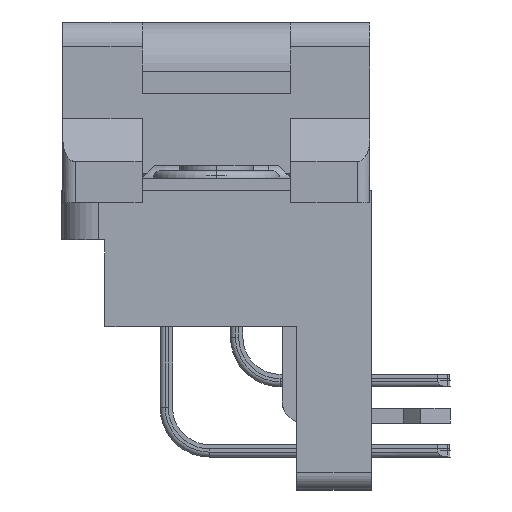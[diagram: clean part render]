
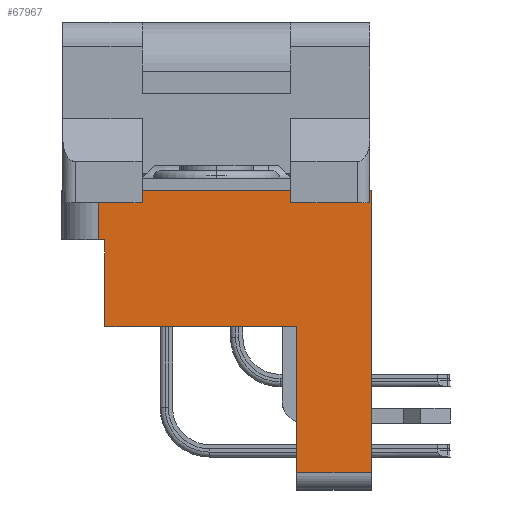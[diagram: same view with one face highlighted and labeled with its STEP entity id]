
A CAD part, left-side view. The second image highlights one B-rep face of the part: STEP entity #67967.
In plain terms, the highlighted planar face has unit normal (-1, 0, 0).
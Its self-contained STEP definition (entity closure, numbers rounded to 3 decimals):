
#2152 = CARTESIAN_POINT ( 'NONE',  ( -34.65, 4.5, -2. ) ) ;
#2192 = CARTESIAN_POINT ( 'NONE',  ( -34.65, -3.25, -11.4 ) ) ;
#2970 = CARTESIAN_POINT ( 'NONE',  ( -34.65, 4.5, -5.5 ) ) ;
#5992 = DIRECTION ( 'NONE',  ( 0., -1., 0. ) ) ;
#7245 = EDGE_CURVE ( 'NONE', #60259, #33362, #33863, .T. ) ;
#7674 = CARTESIAN_POINT ( 'NONE',  ( -34.65, -6.25, 0. ) ) ;
#9642 = CARTESIAN_POINT ( 'NONE',  ( -34.65, 6.25, 0. ) ) ;
#10443 = DIRECTION ( 'NONE',  ( -1., 0., 0. ) ) ;
#11184 = VECTOR ( 'NONE', #30259, 1000. ) ;
#11449 = LINE ( 'NONE', #17600, #44973 ) ;
#13074 = CARTESIAN_POINT ( 'NONE',  ( -34.65, -6.25, -5.5 ) ) ;
#13915 = VECTOR ( 'NONE', #51491, 1000. ) ;
#15264 = VERTEX_POINT ( 'NONE', #33011 ) ;
#15888 = ORIENTED_EDGE ( 'NONE', *, *, #52907, .F. ) ;
#16714 = VECTOR ( 'NONE', #41536, 1000. ) ;
#16988 = CARTESIAN_POINT ( 'NONE',  ( -34.65, -6.25, -11.4 ) ) ;
#17097 = EDGE_CURVE ( 'NONE', #46381, #24580, #39958, .T. ) ;
#17202 = VECTOR ( 'NONE', #19880, 1000. ) ;
#17600 = CARTESIAN_POINT ( 'NONE',  ( -34.65, -3.25, -5.5 ) ) ;
#18136 = ORIENTED_EDGE ( 'NONE', *, *, #7245, .T. ) ;
#18995 = AXIS2_PLACEMENT_3D ( 'NONE', #47416, #10443, #52796 ) ;
#19880 = DIRECTION ( 'NONE',  ( 0., 0., 1. ) ) ;
#19897 = CARTESIAN_POINT ( 'NONE',  ( -34.65, -3.25, -5.5 ) ) ;
#24580 = VERTEX_POINT ( 'NONE', #19897 ) ;
#28758 = VECTOR ( 'NONE', #52209, 1000. ) ;
#29569 = VERTEX_POINT ( 'NONE', #46832 ) ;
#30259 = DIRECTION ( 'NONE',  ( 0., -1., 0. ) ) ;
#30555 = ORIENTED_EDGE ( 'NONE', *, *, #68907, .T. ) ;
#30645 = DIRECTION ( 'NONE',  ( 0., 0., 1. ) ) ;
#31050 = EDGE_LOOP ( 'NONE', ( #58791, #15888, #51312, #47045, #54209, #30555, #18136, #46698 ) ) ;
#33011 = CARTESIAN_POINT ( 'NONE',  ( -34.65, 4.75, 0. ) ) ;
#33362 = VERTEX_POINT ( 'NONE', #2152 ) ;
#33863 = LINE ( 'NONE', #36140, #11184 ) ;
#33929 = CARTESIAN_POINT ( 'NONE',  ( -34.65, 4.5, -5.5 ) ) ;
#35484 = VERTEX_POINT ( 'NONE', #2192 ) ;
#36120 = CARTESIAN_POINT ( 'NONE',  ( -34.65, 4.75, -5.5 ) ) ;
#36140 = CARTESIAN_POINT ( 'NONE',  ( -34.65, 7.5, -2. ) ) ;
#39958 = LINE ( 'NONE', #52177, #13915 ) ;
#41536 = DIRECTION ( 'NONE',  ( 0., -1., 0. ) ) ;
#41873 = VERTEX_POINT ( 'NONE', #7674 ) ;
#42398 = LINE ( 'NONE', #13074, #17202 ) ;
#42779 = LINE ( 'NONE', #9642, #16714 ) ;
#43907 = EDGE_CURVE ( 'NONE', #35484, #29569, #59786, .T. ) ;
#43942 = FACE_OUTER_BOUND ( 'NONE', #31050, .T. ) ;
#44973 = VECTOR ( 'NONE', #49015, 1000. ) ;
#45726 = EDGE_CURVE ( 'NONE', #15264, #41873, #42779, .T. ) ;
#46381 = VERTEX_POINT ( 'NONE', #33929 ) ;
#46698 = ORIENTED_EDGE ( 'NONE', *, *, #57097, .F. ) ;
#46832 = CARTESIAN_POINT ( 'NONE',  ( -34.65, -6.25, -11.4 ) ) ;
#47045 = ORIENTED_EDGE ( 'NONE', *, *, #53598, .T. ) ;
#47416 = CARTESIAN_POINT ( 'NONE',  ( -34.65, 6.25, -5.5 ) ) ;
#47653 = VECTOR ( 'NONE', #30645, 1000. ) ;
#49015 = DIRECTION ( 'NONE',  ( 0., 0., 1. ) ) ;
#50466 = CARTESIAN_POINT ( 'NONE',  ( -34.65, 4.75, -2. ) ) ;
#51312 = ORIENTED_EDGE ( 'NONE', *, *, #43907, .T. ) ;
#51491 = DIRECTION ( 'NONE',  ( 0., -1., 0. ) ) ;
#52177 = CARTESIAN_POINT ( 'NONE',  ( -34.65, 6.25, -5.5 ) ) ;
#52209 = DIRECTION ( 'NONE',  ( 0., 0., -1. ) ) ;
#52337 = PLANE ( 'NONE',  #18995 ) ;
#52796 = DIRECTION ( 'NONE',  ( 0., 0., 1. ) ) ;
#52907 = EDGE_CURVE ( 'NONE', #35484, #24580, #11449, .T. ) ;
#53598 = EDGE_CURVE ( 'NONE', #29569, #41873, #42398, .T. ) ;
#54209 = ORIENTED_EDGE ( 'NONE', *, *, #45726, .F. ) ;
#57097 = EDGE_CURVE ( 'NONE', #46381, #33362, #67706, .T. ) ;
#57199 = LINE ( 'NONE', #36120, #28758 ) ;
#58791 = ORIENTED_EDGE ( 'NONE', *, *, #17097, .T. ) ;
#59786 = LINE ( 'NONE', #16988, #62270 ) ;
#60259 = VERTEX_POINT ( 'NONE', #50466 ) ;
#62270 = VECTOR ( 'NONE', #5992, 1000. ) ;
#67706 = LINE ( 'NONE', #2970, #47653 ) ;
#67967 = ADVANCED_FACE ( 'NONE', ( #43942 ), #52337, .T. ) ;
#68907 = EDGE_CURVE ( 'NONE', #15264, #60259, #57199, .T. ) ;
